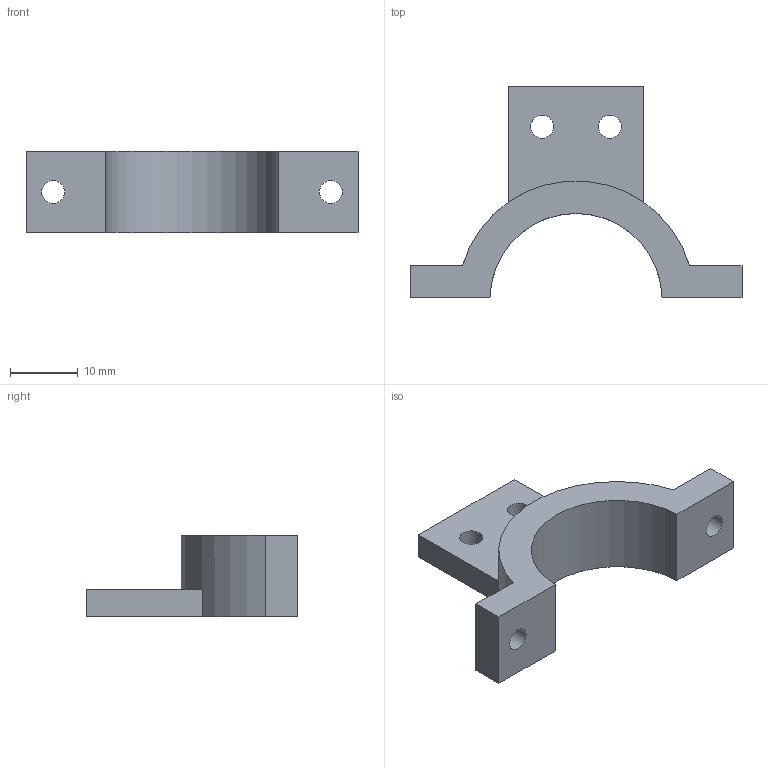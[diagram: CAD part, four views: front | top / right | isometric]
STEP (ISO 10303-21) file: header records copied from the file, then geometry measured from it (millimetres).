
FILE_DESCRIPTION(('Open CASCADE Model'),'2;1');
FILE_NAME('Open CASCADE Shape Model','2026-10-21T16:54:03',('Author'),( 'Open CASCADE'),'Open CASCADE STEP processor 7.9','Open CASCADE 7.9' ,'Unknown');
FILE_SCHEMA(('AUTOMOTIVE_DESIGN { 1 0 10303 214 1 1 1 1 }'));
Length unit declared in the file: millimetre
Products named in the file (1): Open CASCADE STEP translator 7.9 62
Bounding box: 49 x 31.25 x 12 mm (x, y, z)
Volume: 4572.1 mm3; surface area: 3028.5 mm2
Topology: 1 solids, 1 shells, 18 faces, 48 edges, 32 vertices
Faces by surface type: plane 12, cylinder 6
Full cylindrical faces by diameter (mm): 3.4 x4
Entity records: 1231 total; most frequent: CARTESIAN_POINT 225, DIRECTION 191, LINE 116, VECTOR 116, ORIENTED_EDGE 96, PCURVE 96, DEFINITIONAL_REPRESENTATION 96, EDGE_CURVE 48
